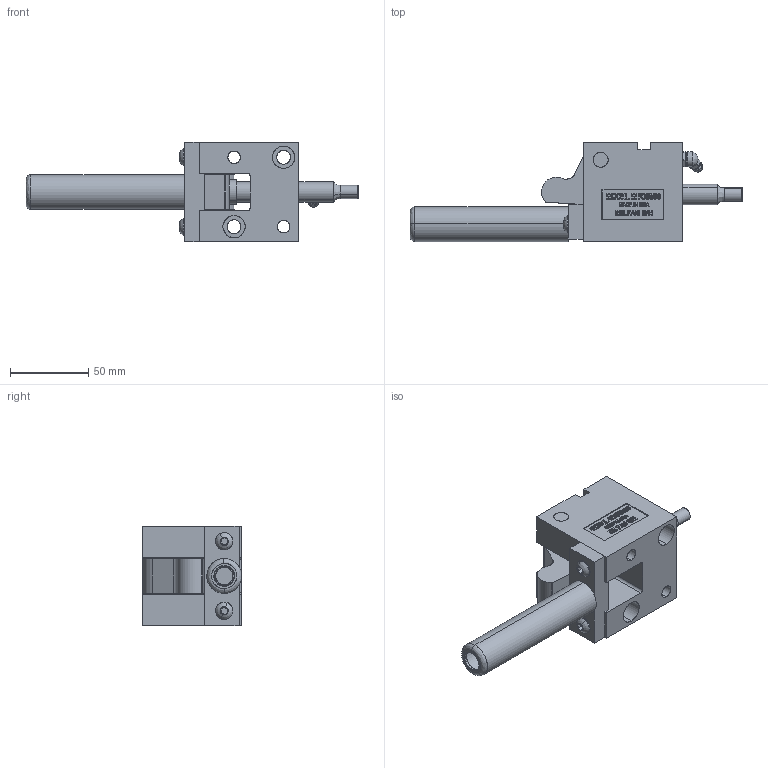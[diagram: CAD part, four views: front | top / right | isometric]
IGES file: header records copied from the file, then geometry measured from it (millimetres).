
Start section: SolidWorks IGES file using analytic representation for surfaces
Global section: file name: Y:\METRIC With OFFSETRIGGER\TOPMOUNT\MTOS50045\CLOSED\MTOS50045-C.IGS; native system: SolidWorks 2006 by SolidWorks Corporation; preprocessor: SolidWorks 2006 by SolidWorks Corporation; author: Jim; date: 090121.133308; units: inch
Bounding box: 212.6 x 63.5 x 63.5 mm (x, y, z)
Surface area: 69954.6 mm2 (no closed solid volume)
Topology: 0 solids, 0 shells, 595 faces, 7349 edges, 7345 vertices
Faces by surface type: bspline 479, revolution 116
